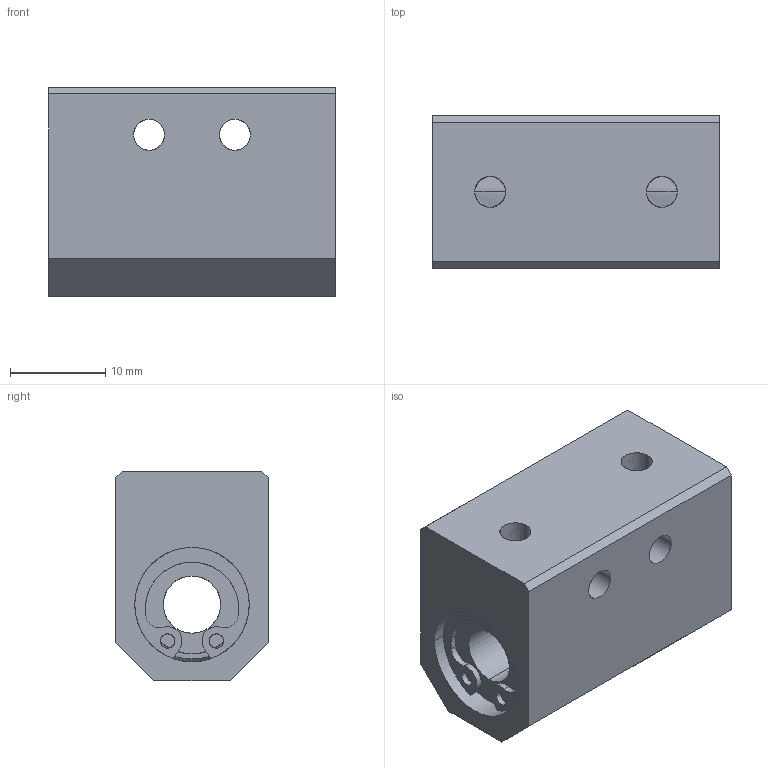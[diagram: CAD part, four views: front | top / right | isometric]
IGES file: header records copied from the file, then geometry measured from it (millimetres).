
Global section: file name: No Iges File Name specified; native system: AutoDesk Inventor R10; preprocessor: AutoDesk Inventor Iges Exporter R10; author: No Author specified; organization: No Organization specified; date: 20101216.151414; units: millimetre
Bounding box: 30 x 16 x 22 mm (x, y, z)
Surface area: 4307.9 mm2 (no closed solid volume)
Topology: 0 solids, 0 shells, 94 faces, 766 edges, 766 vertices
Faces by surface type: bspline 94
